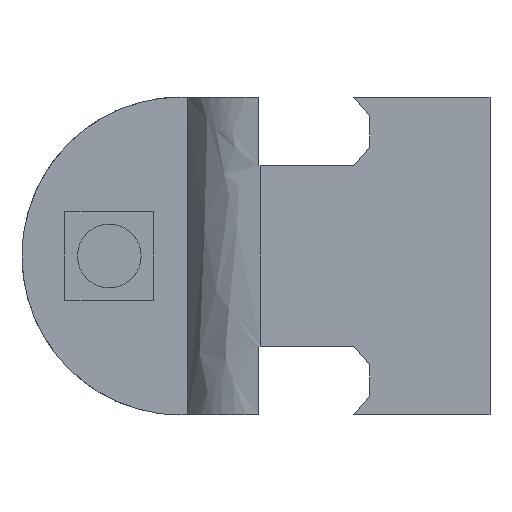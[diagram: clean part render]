
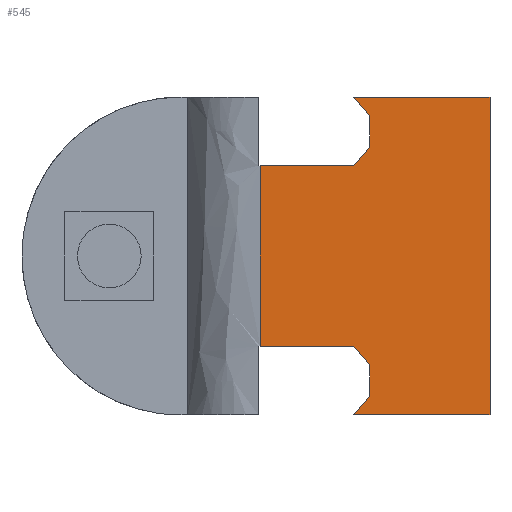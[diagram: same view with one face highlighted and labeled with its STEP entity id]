
A CAD part, front view. The second image highlights one B-rep face of the part: STEP entity #545.
In plain terms, the highlighted planar face has unit normal (0, -1, 0).
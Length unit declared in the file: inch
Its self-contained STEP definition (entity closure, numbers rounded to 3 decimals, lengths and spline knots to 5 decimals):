
#309=EDGE_CURVE('',#836,#837,#838,.T.);
#385=EDGE_CURVE('',#966,#859,#967,.T.);
#405=EDGE_CURVE('',#837,#995,#996,.T.);
#433=EDGE_CURVE('',#1042,#1043,#1044,.T.);
#507=EDGE_CURVE('',#1141,#1043,#1142,.T.);
#545=ADVANCED_FACE('',(#1195),#1196,.T.);
#581=EDGE_CURVE('',#1141,#1241,#1242,.T.);
#597=EDGE_CURVE('',#851,#836,#1263,.T.);
#667=EDGE_CURVE('',#1016,#851,#1347,.T.);
#731=EDGE_CURVE('',#1241,#1016,#1425,.T.);
#759=EDGE_CURVE('',#1167,#1042,#1461,.T.);
#779=EDGE_CURVE('',#995,#966,#1484,.T.);
#791=EDGE_CURVE('',#859,#1167,#1498,.T.);
#836=VERTEX_POINT('',#1555);
#837=VERTEX_POINT('',#1556);
#838=LINE('',#1557,#1558);
#851=VERTEX_POINT('',#1587);
#859=VERTEX_POINT('',#1599);
#966=VERTEX_POINT('',#1869);
#967=LINE('',#1870,#1871);
#995=VERTEX_POINT('',#1942);
#996=LINE('',#1943,#1944);
#1016=VERTEX_POINT('',#2001);
#1042=VERTEX_POINT('',#2041);
#1043=VERTEX_POINT('',#2042);
#1044=LINE('',#2043,#2044);
#1141=VERTEX_POINT('',#2256);
#1142=LINE('',#2257,#2258);
#1167=VERTEX_POINT('',#2315);
#1195=FACE_OUTER_BOUND('',#2424,.T.);
#1196=PLANE('',#2425);
#1241=VERTEX_POINT('',#2524);
#1242=LINE('',#2525,#2526);
#1263=LINE('',#2566,#2567);
#1347=LINE('',#2838,#2839);
#1425=LINE('',#3078,#3079);
#1461=LINE('',#3138,#3139);
#1484=LINE('',#3191,#3192);
#1498=LINE('',#3215,#3216);
#1555=CARTESIAN_POINT('',(1.13589,0.31742,0.00009));
#1556=CARTESIAN_POINT('',(1.67156,0.31742,0.00009));
#1557=CARTESIAN_POINT('',(1.32572,0.31742,0.00009));
#1558=VECTOR('',#3258,1.0);
#1587=CARTESIAN_POINT('',(1.19836,0.31742,0.07259));
#1599=CARTESIAN_POINT('',(1.19836,0.31742,1.17739));
#1869=CARTESIAN_POINT('',(1.13589,0.31742,1.24989));
#1870=CARTESIAN_POINT('',(1.47849,0.31742,0.85232));
#1871=VECTOR('',#3396,1.0);
#1942=CARTESIAN_POINT('',(1.67156,0.31742,1.24989));
#1943=CARTESIAN_POINT('',(1.67156,0.31742,0.0));
#1944=VECTOR('',#3405,1.0);
#2001=CARTESIAN_POINT('',(1.19836,0.31742,0.19755));
#2041=CARTESIAN_POINT('',(1.13589,0.31742,0.97994));
#2042=CARTESIAN_POINT('',(0.76854,0.31742,0.97994));
#2043=CARTESIAN_POINT('',(1.08424,0.31742,0.97994));
#2044=VECTOR('',#3447,1.0);
#2256=CARTESIAN_POINT('',(0.76854,0.31742,0.27005));
#2257=CARTESIAN_POINT('',(0.76854,0.31742,0.0));
#2258=VECTOR('',#3539,1.0);
#2315=CARTESIAN_POINT('',(1.19836,0.31742,1.05244));
#2424=EDGE_LOOP('',(#3598,#3599,#3600,#3601,#3602,#3603,#3604,#3605,#3606,#3607,#3608,#3609));
#2425=AXIS2_PLACEMENT_3D('',#3610,#3611,#3612);
#2524=CARTESIAN_POINT('',(1.13589,0.31742,0.27005));
#2525=CARTESIAN_POINT('',(1.08424,0.31742,0.27005));
#2526=VECTOR('',#3661,1.0);
#2566=CARTESIAN_POINT('',(1.16942,0.31742,0.039));
#2567=VECTOR('',#3674,1.0);
#2838=CARTESIAN_POINT('',(1.19836,0.31742,0.06754));
#2839=VECTOR('',#3754,1.0);
#3078=CARTESIAN_POINT('',(1.23621,0.31742,0.15363));
#3079=VECTOR('',#3862,1.0);
#3138=CARTESIAN_POINT('',(0.92715,0.31742,0.73769));
#3139=VECTOR('',#3928,1.0);
#3191=CARTESIAN_POINT('',(1.32572,0.31742,1.24989));
#3192=VECTOR('',#3954,1.0);
#3215=CARTESIAN_POINT('',(1.19836,0.31742,0.55746));
#3216=VECTOR('',#3971,1.0);
#3258=DIRECTION('',(1.0,0.0,0.0));
#3396=DIRECTION('',(0.653,-0.0,-0.758));
#3405=DIRECTION('',(0.0,0.0,1.0));
#3447=DIRECTION('',(-1.0,0.0,0.0));
#3539=DIRECTION('',(0.0,0.0,1.0));
#3598=ORIENTED_EDGE('',*,*,#779,.T.);
#3599=ORIENTED_EDGE('',*,*,#385,.T.);
#3600=ORIENTED_EDGE('',*,*,#791,.T.);
#3601=ORIENTED_EDGE('',*,*,#759,.T.);
#3602=ORIENTED_EDGE('',*,*,#433,.T.);
#3603=ORIENTED_EDGE('',*,*,#507,.F.);
#3604=ORIENTED_EDGE('',*,*,#581,.T.);
#3605=ORIENTED_EDGE('',*,*,#731,.T.);
#3606=ORIENTED_EDGE('',*,*,#667,.T.);
#3607=ORIENTED_EDGE('',*,*,#597,.T.);
#3608=ORIENTED_EDGE('',*,*,#309,.T.);
#3609=ORIENTED_EDGE('',*,*,#405,.T.);
#3610=CARTESIAN_POINT('',(1.22005,0.31742,0.0));
#3611=DIRECTION('',(0.0,-1.0,0.0));
#3612=DIRECTION('',(1.0,0.0,-0.0));
#3661=DIRECTION('',(1.0,0.0,0.0));
#3674=DIRECTION('',(-0.653,0.0,-0.758));
#3754=DIRECTION('',(0.0,-0.0,-1.0));
#3862=DIRECTION('',(0.653,-0.0,-0.758));
#3928=DIRECTION('',(-0.653,0.0,-0.758));
#3954=DIRECTION('',(-1.0,0.0,0.0));
#3971=DIRECTION('',(0.0,-0.0,-1.0));
